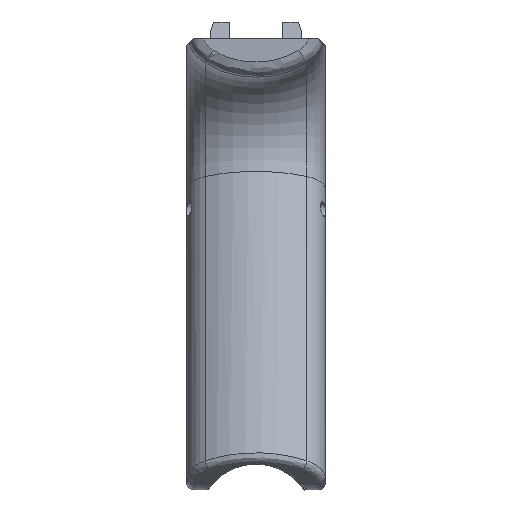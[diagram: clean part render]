
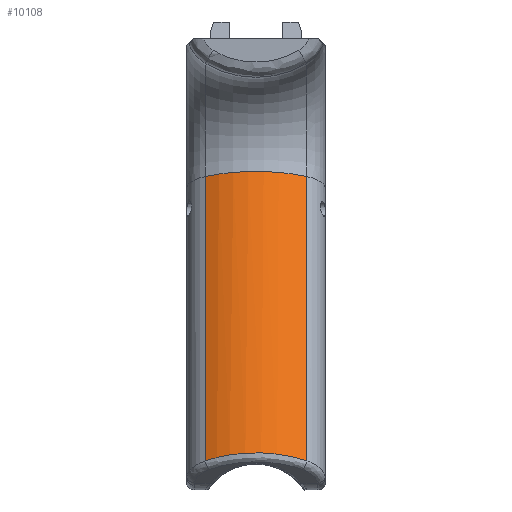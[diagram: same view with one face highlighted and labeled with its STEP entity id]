
A CAD part, left-side view. The second image highlights one B-rep face of the part: STEP entity #10108.
In plain terms, the highlighted cylindrical face has radius 20.552 mm (diameter 41.104 mm), a partial arc.
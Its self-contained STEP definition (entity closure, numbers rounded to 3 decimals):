
#897=LINE('',#27880,#1511);
#898=LINE('',#27889,#1512);
#1511=VECTOR('',#12645,10.);
#1512=VECTOR('',#12650,10.);
#1696=CYLINDRICAL_SURFACE('',#10854,20.552);
#1829=ELLIPSE('',#10855,21.05,20.552);
#2200=FACE_OUTER_BOUND('',#2732,.T.);
#2732=EDGE_LOOP('',(#8542,#8543,#8544,#8545));
#3122=CIRCLE('',#10840,20.552);
#4568=VERTEX_POINT('',#27632);
#4574=VERTEX_POINT('',#27682);
#4586=VERTEX_POINT('',#27877);
#4589=VERTEX_POINT('',#27888);
#5985=EDGE_CURVE('',#4574,#4568,#3122,.T.);
#6003=EDGE_CURVE('',#4586,#4568,#897,.T.);
#6006=EDGE_CURVE('',#4589,#4574,#898,.T.);
#6007=EDGE_CURVE('',#4589,#4586,#1829,.T.);
#8542=ORIENTED_EDGE('',*,*,#6006,.T.);
#8543=ORIENTED_EDGE('',*,*,#5985,.T.);
#8544=ORIENTED_EDGE('',*,*,#6003,.F.);
#8545=ORIENTED_EDGE('',*,*,#6007,.F.);
#10108=ADVANCED_FACE('',(#2200),#1696,.T.);
#10840=AXIS2_PLACEMENT_3D('',#27730,#12611,#12612);
#10854=AXIS2_PLACEMENT_3D('',#27887,#12648,#12649);
#10855=AXIS2_PLACEMENT_3D('',#27890,#12651,#12652);
#12611=DIRECTION('center_axis',(-0.367,-0.93,0.));
#12612=DIRECTION('ref_axis',(-0.799,0.315,0.512));
#12645=DIRECTION('',(0.367,0.93,0.));
#12648=DIRECTION('center_axis',(0.367,0.93,0.));
#12649=DIRECTION('ref_axis',(-0.799,0.315,0.512));
#12650=DIRECTION('',(0.367,0.93,0.));
#12651=DIRECTION('center_axis',(-0.559,-0.829,0.));
#12652=DIRECTION('ref_axis',(-0.829,0.559,0.));
#27632=CARTESIAN_POINT('',(14.736,-30.517,-10.529));
#27682=CARTESIAN_POINT('',(14.736,-30.517,10.529));
#27730=CARTESIAN_POINT('Origin',(31.157,-36.986,0.));
#27877=CARTESIAN_POINT('',(-8.48,-89.454,-10.529));
#27880=CARTESIAN_POINT('',(-10.338,-94.17,-10.529));
#27887=CARTESIAN_POINT('Origin',(6.084,-100.639,0.));
#27888=CARTESIAN_POINT('',(-8.48,-89.454,10.529));
#27889=CARTESIAN_POINT('',(-10.338,-94.17,10.529));
#27890=CARTESIAN_POINT('Origin',(6.509,-99.56,0.));
